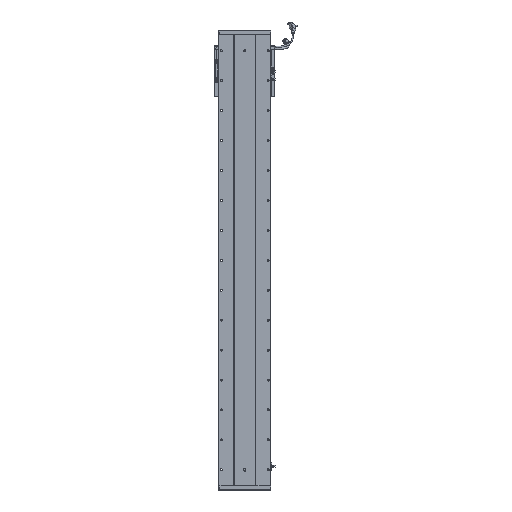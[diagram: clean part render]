
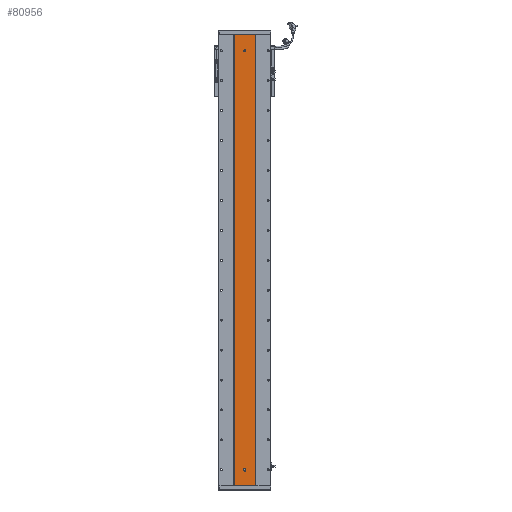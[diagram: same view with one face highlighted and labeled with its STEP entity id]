
A CAD part, front view. The second image highlights one B-rep face of the part: STEP entity #80956.
In plain terms, the highlighted planar face has unit normal (0, -1, 0).
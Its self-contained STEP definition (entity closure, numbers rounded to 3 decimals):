
#111 = VECTOR ( 'NONE', #79630, 1000. ) ;
#328 = DIRECTION ( 'NONE',  ( 0., 0., -1. ) ) ;
#2239 = FACE_BOUND ( 'NONE', #20753, .T. ) ;
#4559 = ORIENTED_EDGE ( 'NONE', *, *, #56995, .T. ) ;
#5180 = EDGE_CURVE ( 'NONE', #88893, #31695, #91200, .T. ) ;
#5263 = ORIENTED_EDGE ( 'NONE', *, *, #26784, .F. ) ;
#6677 = ORIENTED_EDGE ( 'NONE', *, *, #57609, .F. ) ;
#6761 = DIRECTION ( 'NONE',  ( 0., 0., 1. ) ) ;
#7237 = CARTESIAN_POINT ( 'NONE',  ( 3280.529, 1415.701, 52. ) ) ;
#8299 = EDGE_CURVE ( 'NONE', #61149, #39574, #53760, .T. ) ;
#8532 = LINE ( 'NONE', #97257, #99851 ) ;
#9433 = DIRECTION ( 'NONE',  ( 0., -1., 0. ) ) ;
#9929 = LINE ( 'NONE', #80967, #111 ) ;
#10123 = LINE ( 'NONE', #71299, #24718 ) ;
#11122 = AXIS2_PLACEMENT_3D ( 'NONE', #68677, #100697, #6761 ) ;
#12264 = CARTESIAN_POINT ( 'NONE',  ( 3283.529, 1415.701, 55. ) ) ;
#13963 = VERTEX_POINT ( 'NONE', #77189 ) ;
#14515 = ORIENTED_EDGE ( 'NONE', *, *, #26226, .T. ) ;
#15679 = CARTESIAN_POINT ( 'NONE',  ( 3244.748, 1415.701, 0. ) ) ;
#16748 = CARTESIAN_POINT ( 'NONE',  ( 3280.529, 1415.701, 1450.5 ) ) ;
#17514 = VECTOR ( 'NONE', #29521, 1000. ) ;
#18673 = LINE ( 'NONE', #12264, #17514 ) ;
#20753 = EDGE_LOOP ( 'NONE', ( #64124, #63942 ) ) ;
#22249 = DIRECTION ( 'NONE',  ( 0., 0., -1. ) ) ;
#22320 = EDGE_CURVE ( 'NONE', #94401, #51113, #36788, .T. ) ;
#24718 = VECTOR ( 'NONE', #86638, 1000. ) ;
#25591 = AXIS2_PLACEMENT_3D ( 'NONE', #92026, #36555, #22249 ) ;
#26226 = EDGE_CURVE ( 'NONE', #61149, #93972, #89768, .T. ) ;
#26607 = AXIS2_PLACEMENT_3D ( 'NONE', #70953, #9433, #79482 ) ;
#26784 = EDGE_CURVE ( 'NONE', #68380, #31591, #82308, .T. ) ;
#28799 = CARTESIAN_POINT ( 'NONE',  ( 3244.748, 1415.701, 1507. ) ) ;
#29521 = DIRECTION ( 'NONE',  ( 0., 0., 1. ) ) ;
#29574 = PLANE ( 'NONE',  #11122 ) ;
#30616 = EDGE_CURVE ( 'NONE', #31695, #88893, #67764, .T. ) ;
#30941 = ORIENTED_EDGE ( 'NONE', *, *, #55376, .F. ) ;
#31591 = VERTEX_POINT ( 'NONE', #90630 ) ;
#31638 = CARTESIAN_POINT ( 'NONE',  ( 3244.748, 1415.701, 1507. ) ) ;
#31695 = VERTEX_POINT ( 'NONE', #90282 ) ;
#35986 = ORIENTED_EDGE ( 'NONE', *, *, #65647, .F. ) ;
#36555 = DIRECTION ( 'NONE',  ( 0., -1., 0. ) ) ;
#36612 = DIRECTION ( 'NONE',  ( 1., 0., 0. ) ) ;
#36788 = CIRCLE ( 'NONE', #82356, 3. ) ;
#38179 = CARTESIAN_POINT ( 'NONE',  ( 3283.529, 1415.701, 55. ) ) ;
#39574 = VERTEX_POINT ( 'NONE', #89526 ) ;
#41037 = VECTOR ( 'NONE', #328, 1000. ) ;
#41629 = AXIS2_PLACEMENT_3D ( 'NONE', #52188, #99180, #91698 ) ;
#45229 = CIRCLE ( 'NONE', #41629, 3. ) ;
#47248 = FACE_BOUND ( 'NONE', #56403, .T. ) ;
#49521 = VERTEX_POINT ( 'NONE', #61602 ) ;
#50063 = DIRECTION ( 'NONE',  ( 0., -1., 0. ) ) ;
#51113 = VERTEX_POINT ( 'NONE', #84772 ) ;
#51835 = ORIENTED_EDGE ( 'NONE', *, *, #22320, .F. ) ;
#52188 = CARTESIAN_POINT ( 'NONE',  ( 3280.529, 1415.701, 52. ) ) ;
#53156 = DIRECTION ( 'NONE',  ( 0., 0., -1. ) ) ;
#53760 = LINE ( 'NONE', #28799, #70859 ) ;
#55376 = EDGE_CURVE ( 'NONE', #51113, #68380, #18673, .T. ) ;
#55684 = EDGE_CURVE ( 'NONE', #39574, #13963, #10123, .T. ) ;
#56403 = EDGE_LOOP ( 'NONE', ( #35986, #6677, #5263, #30941, #51835 ) ) ;
#56995 = EDGE_CURVE ( 'NONE', #93972, #13963, #9929, .T. ) ;
#57609 = EDGE_CURVE ( 'NONE', #31591, #49521, #8532, .T. ) ;
#61149 = VERTEX_POINT ( 'NONE', #77870 ) ;
#61602 = CARTESIAN_POINT ( 'NONE',  ( 3277.529, 1415.701, 52. ) ) ;
#63061 = FACE_OUTER_BOUND ( 'NONE', #77530, .T. ) ;
#63942 = ORIENTED_EDGE ( 'NONE', *, *, #30616, .F. ) ;
#64124 = ORIENTED_EDGE ( 'NONE', *, *, #5180, .F. ) ;
#65647 = EDGE_CURVE ( 'NONE', #49521, #94401, #45229, .T. ) ;
#67764 = CIRCLE ( 'NONE', #25591, 3. ) ;
#68058 = ORIENTED_EDGE ( 'NONE', *, *, #55684, .F. ) ;
#68380 = VERTEX_POINT ( 'NONE', #38179 ) ;
#68677 = CARTESIAN_POINT ( 'NONE',  ( 3244.748, 1415.701, 1507. ) ) ;
#70572 = AXIS2_PLACEMENT_3D ( 'NONE', #94338, #50063, #70735 ) ;
#70735 = DIRECTION ( 'NONE',  ( 0., 0., -1. ) ) ;
#70859 = VECTOR ( 'NONE', #36612, 1000. ) ;
#70953 = CARTESIAN_POINT ( 'NONE',  ( 3280.529, 1415.701, 55. ) ) ;
#71299 = CARTESIAN_POINT ( 'NONE',  ( 3316.311, 1415.701, 1507. ) ) ;
#73683 = ORIENTED_EDGE ( 'NONE', *, *, #8299, .F. ) ;
#77189 = CARTESIAN_POINT ( 'NONE',  ( 3316.311, 1415.701, 0. ) ) ;
#77530 = EDGE_LOOP ( 'NONE', ( #4559, #68058, #73683, #14515 ) ) ;
#77870 = CARTESIAN_POINT ( 'NONE',  ( 3244.748, 1415.701, 1507. ) ) ;
#79482 = DIRECTION ( 'NONE',  ( 0., 0., -1. ) ) ;
#79630 = DIRECTION ( 'NONE',  ( 1., 0., 0. ) ) ;
#80956 = ADVANCED_FACE ( 'NONE', ( #47248, #2239, #63061 ), #29574, .F. ) ;
#80967 = CARTESIAN_POINT ( 'NONE',  ( 3244.748, 1415.701, 0. ) ) ;
#82308 = CIRCLE ( 'NONE', #26607, 3. ) ;
#82356 = AXIS2_PLACEMENT_3D ( 'NONE', #7237, #98125, #53156 ) ;
#82904 = DIRECTION ( 'NONE',  ( 0., 0., -1. ) ) ;
#84772 = CARTESIAN_POINT ( 'NONE',  ( 3283.529, 1415.701, 52. ) ) ;
#86638 = DIRECTION ( 'NONE',  ( 0., 0., -1. ) ) ;
#88893 = VERTEX_POINT ( 'NONE', #16748 ) ;
#89526 = CARTESIAN_POINT ( 'NONE',  ( 3316.311, 1415.701, 1507. ) ) ;
#89768 = LINE ( 'NONE', #31638, #41037 ) ;
#90282 = CARTESIAN_POINT ( 'NONE',  ( 3280.529, 1415.701, 1456.5 ) ) ;
#90630 = CARTESIAN_POINT ( 'NONE',  ( 3277.529, 1415.701, 55. ) ) ;
#91200 = CIRCLE ( 'NONE', #70572, 3. ) ;
#91698 = DIRECTION ( 'NONE',  ( 0., 0., -1. ) ) ;
#92026 = CARTESIAN_POINT ( 'NONE',  ( 3280.529, 1415.701, 1453.5 ) ) ;
#93972 = VERTEX_POINT ( 'NONE', #15679 ) ;
#94338 = CARTESIAN_POINT ( 'NONE',  ( 3280.529, 1415.701, 1453.5 ) ) ;
#94401 = VERTEX_POINT ( 'NONE', #100700 ) ;
#97257 = CARTESIAN_POINT ( 'NONE',  ( 3277.529, 1415.701, 55. ) ) ;
#98125 = DIRECTION ( 'NONE',  ( 0., -1., 0. ) ) ;
#99180 = DIRECTION ( 'NONE',  ( 0., -1., 0. ) ) ;
#99851 = VECTOR ( 'NONE', #82904, 1000. ) ;
#100697 = DIRECTION ( 'NONE',  ( 0., 1., 0. ) ) ;
#100700 = CARTESIAN_POINT ( 'NONE',  ( 3280.529, 1415.701, 49. ) ) ;
